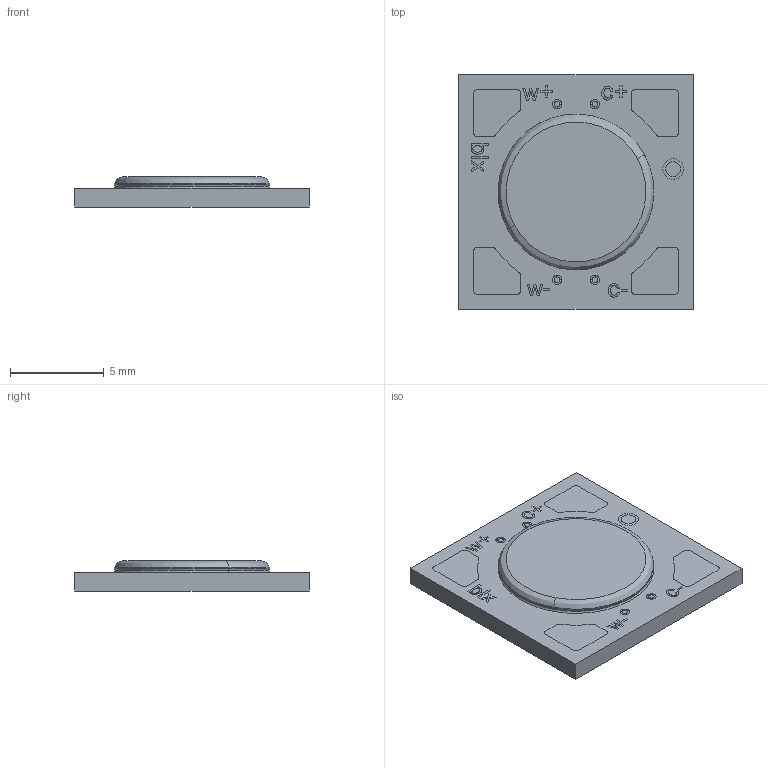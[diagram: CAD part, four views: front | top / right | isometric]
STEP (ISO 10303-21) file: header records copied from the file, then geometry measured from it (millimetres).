
FILE_DESCRIPTION (( 'STEP AP214' ), '1' );
FILE_NAME ('NTW6-G3 Assembly.STEP', '2024-12-26T08:31:55', ( '' ), ( '' ), 'SwSTEP 2.0', 'SolidWorks 2018', '' );
FILE_SCHEMA (( 'AUTOMOTIVE_DESIGN' ));
Length unit declared in the file: millimetre
Products named in the file (1): NTW6-G3 Assembly
Bounding box: 12.5 x 12.5 x 1.6 mm (x, y, z)
Volume: 187.4 mm3; surface area: 373.7 mm2
Topology: 1 solids, 1 shells, 192 faces, 483 edges, 320 vertices
Faces by surface type: plane 132, cylinder 44, bspline 10, torus 6
Entity records: 7987 total; most frequent: CARTESIAN_POINT 1242, ORIENTED_EDGE 966, DIRECTION 917, EDGE_CURVE 483, LINE 343, VECTOR 343, VERTEX_POINT 320, AXIS2_PLACEMENT_3D 287
